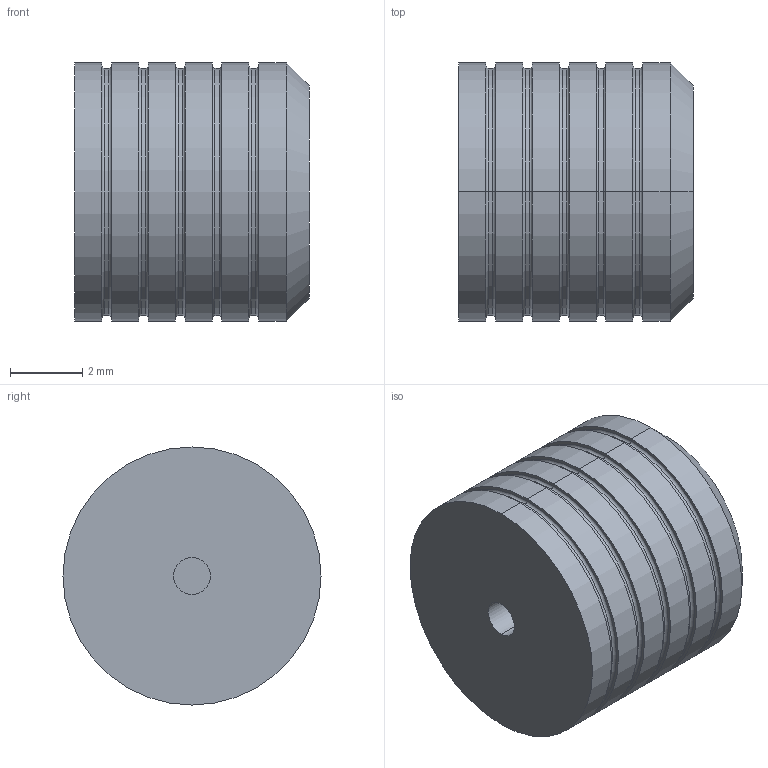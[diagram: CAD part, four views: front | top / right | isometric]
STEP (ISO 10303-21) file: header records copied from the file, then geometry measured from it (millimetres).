
FILE_DESCRIPTION (( 'STEP AP214' ), '1' );
FILE_NAME ('PLGA2810 _ _ 0A.STEP', '2020-02-19T15:54:10', ( 'tlc' ), ( 'Microsoft' ), 'SwSTEP 2.0', 'SolidWorks 2019', '' );
FILE_SCHEMA (( 'AUTOMOTIVE_DESIGN' ));
Length unit declared in the file: inch
Products named in the file (1): PLGA2810 _ _ 0A
Bounding box: 6.48 x 7.13 x 7.13 mm (x, y, z)
Volume: 246.3 mm3; surface area: 256.9 mm2
Topology: 1 solids, 1 shells, 59 faces, 116 edges, 70 vertices
Faces by surface type: cylinder 24, torus 20, plane 13, cone 2
Entity records: 1584 total; most frequent: DIRECTION 326, CARTESIAN_POINT 246, ORIENTED_EDGE 232, AXIS2_PLACEMENT_3D 150, EDGE_CURVE 116, CIRCLE 90, EDGE_LOOP 70, VERTEX_POINT 70
